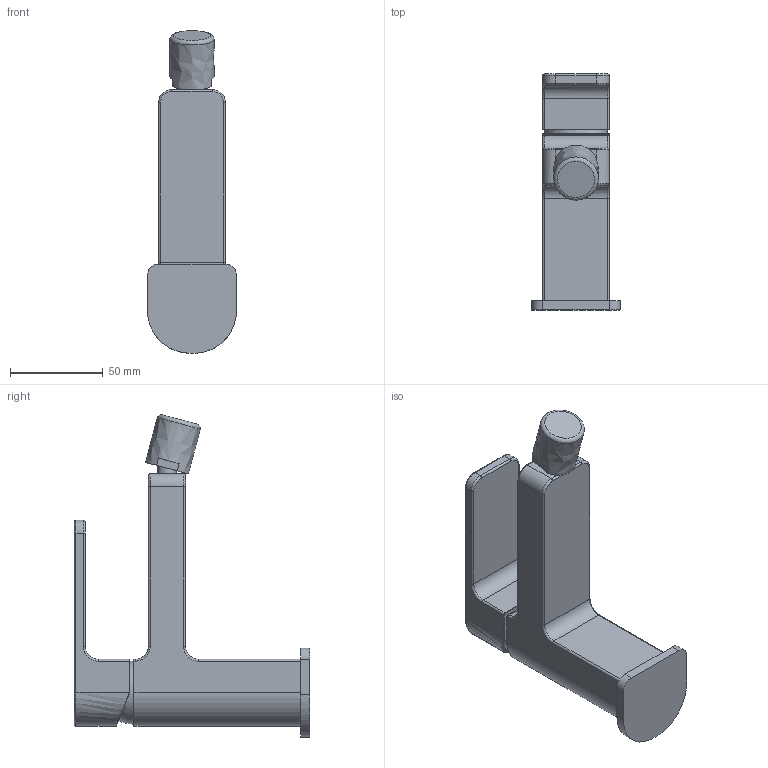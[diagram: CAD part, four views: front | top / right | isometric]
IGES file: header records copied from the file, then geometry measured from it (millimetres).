
Global section: file name: ff1fbad6-87d8-47c1-98a2-04c216ed191f; native system: unknown; preprocessor: unknown; author: unknown; organization: unknown; date: 20191128.080629; units: millimetre
Bounding box: 48 x 127 x 173.71 mm (x, y, z)
Volume: 259069.2 mm3; surface area: 47229.2 mm2
Topology: 6 solids, 6 shells, 96 faces, 211 edges, 126 vertices
Faces by surface type: bspline 96
